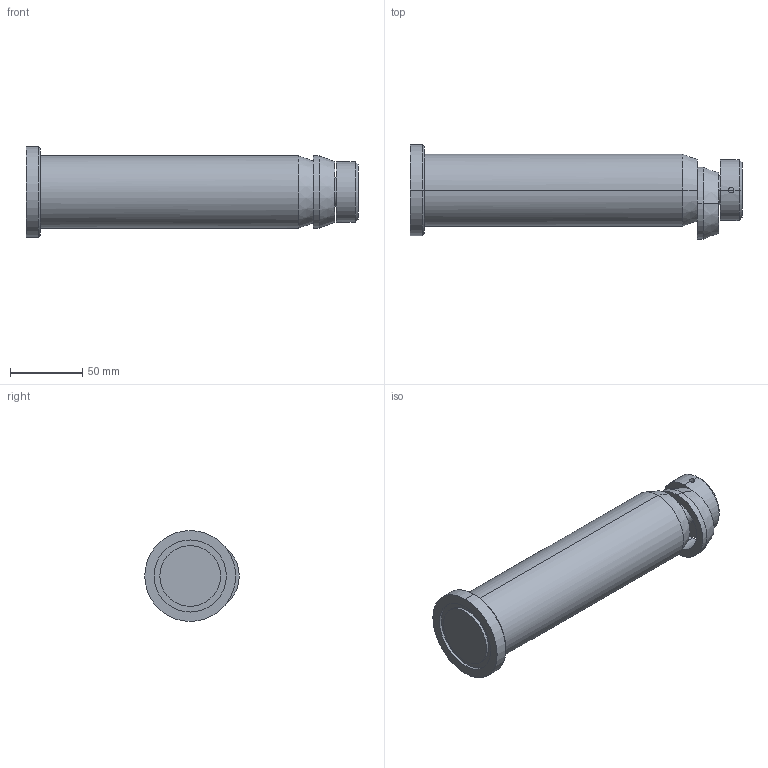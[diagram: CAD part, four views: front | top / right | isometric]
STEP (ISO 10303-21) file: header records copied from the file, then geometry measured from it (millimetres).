
FILE_DESCRIPTION(('CATIA V5 STEP Exchange'),'2;1');
FILE_NAME('C:\Users\Raffaele\Desktop\3D X SITO CF\PERNI -STAFFE SOLLEVAMENTO\395X\GSB_OILLESS_C10303050190\STEP-2.03\395X-050-190.stp','2019-07-03T13:21:59+00:00',('none'),('none'),'CATIA Version 5 Release 20 GA (IN-10)','CATIA V5 STEP AP203','none');
FILE_SCHEMA(('CONFIG_CONTROL_DESIGN'));
Length unit declared in the file: millimetre
Products named in the file (1): 395X-050-190
Assembly tree (3 placements, depth 2):
  395X-050-190
    #58
    #879
    #1244
Bounding box: 230 x 65.5 x 63 mm (x, y, z)
Volume: 432601.1 mm3; surface area: 49982.3 mm2
Topology: 3 solids, 3 shells, 42 faces, 138 edges, 102 vertices
Faces by surface type: cylinder 22, plane 10, cone 10
Entity records: 1976 total; most frequent: CARTESIAN_POINT 668, ORIENTED_EDGE 276, DIRECTION 210, EDGE_CURVE 138, AXIS2_PLACEMENT_3D 126, VERTEX_POINT 102, CIRCLE 78, EDGE_LOOP 50
